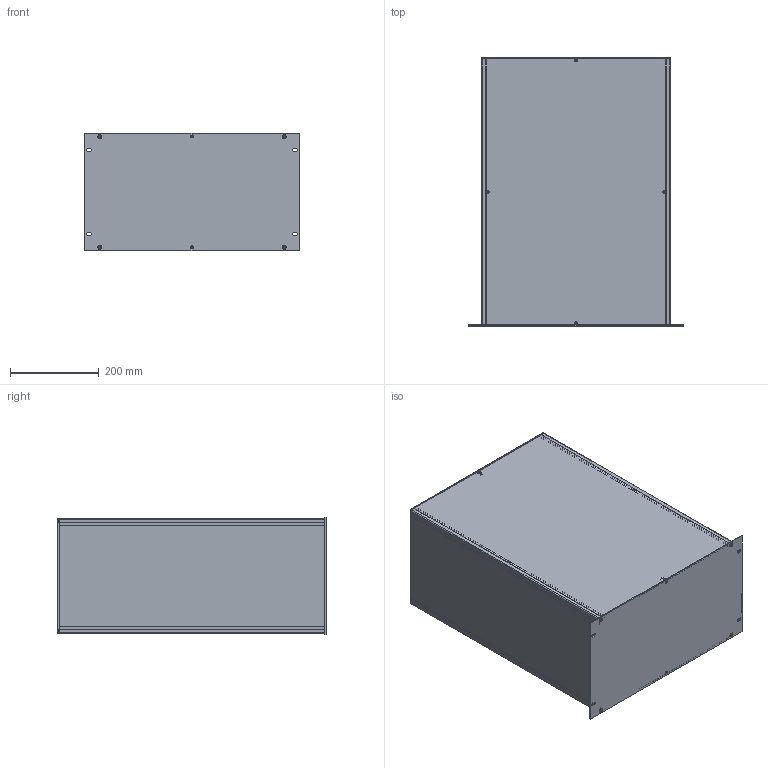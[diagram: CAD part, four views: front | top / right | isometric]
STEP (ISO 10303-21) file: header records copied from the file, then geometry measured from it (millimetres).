
FILE_DESCRIPTION(/* description */ (''),/* implementation_level */ '2;1');
FILE_NAME(/* name */ '//diskstation/Kunden/Gehäuse/Gehäuse/6HE/step/Zoll 1HE Rack Gehäuse Tiefe-600.step',/* time_stamp */ '2022-02-17T16:51:09+01:00',/* author */ (''),/* organization */ (''),/* preprocessor_version */ 'ST-DEVELOPER v18.1',/* originating_system */ 'Autodesk Translation Framework v10.10.0.1391',/* authorisation */ '');
FILE_SCHEMA (('AUTOMOTIVE_DESIGN { 1 0 10303 214 3 1 1 }'));
Length unit declared in the file: millimetre
Products named in the file (28): 6HE Gehäuse mit parametern; Gehäuse; Gehäuseprofil 1 unten links; Gehäuseprofil 2 oben rechts; Gehäuseprofil 1 unten rechts; Gehäuseprofil 2 oben links; Rückplatte; Deckel; Seitenteil links; Seitenteil rechts; Bodenplatte; Montageklotz Front/Deckel; Montageklotz Front/Boden; Montageklotz Rück/Deckel; Montageklotz Rück/Boden; Gewindestreifen; Frontplatte; Schrauben M5; Schraube Front; Schraube Front (1); Schraube Front (2); Schraube Front (3); Schraube Rück (1); Schraube Rück; Schraube Rück (2); Schraube Rück (3); Schrauben M3; HI_Senkschraube DIN 965 A v2 M3x5 24677.030.005(High)
Assembly tree (37 placements, depth 3):
  6HE Gehäuse mit parametern
    Gehäuse
      Gehäuseprofil 1 unten links
      Gehäuseprofil 2 oben rechts
      Gehäuseprofil 1 unten rechts
      Gehäuseprofil 2 oben links
      Rückplatte
      Deckel
      Seitenteil links
      Seitenteil rechts
      Bodenplatte
      Montageklotz Front/Deckel
      Montageklotz Front/Boden
      Montageklotz Rück/Deckel
      Montageklotz Rück/Boden
      Gewindestreifen  x2
    Frontplatte
    Schrauben M5
      Schraube Front
      Schraube Front (1)
      Schraube Front (2)
      Schraube Front (3)
      Schraube Rück (1)
      Schraube Rück
      Schraube Rück (2)
      Schraube Rück (3)
    Schrauben M3
      HI_Senkschraube DIN 965 A v2 M3x5 24677.030.005(High)  x10
Bounding box: 483 x 608.2 x 265 mm (x, y, z)
Volume: 2654565.4 mm3; surface area: 2296372.1 mm2
Topology: 34 solids, 34 shells, 944 faces, 2346 edges, 1470 vertices
Faces by surface type: cylinder 422, plane 342, cone 164, torus 8, bspline 8
Full cylindrical faces by diameter (mm): 2.529 x180, 3 x10, 3.2 x10, 4.234 x40, 5 x8, 5.2 x4, 5.3 x8, 5.6 x10, 9.5 x8
Entity records: 18600 total; most frequent: CARTESIAN_POINT 3348, DIRECTION 3135, ORIENTED_EDGE 2760, EDGE_CURVE 1380, AXIS2_PLACEMENT_3D 1195, VERTEX_POINT 868, EDGE_LOOP 866, LINE 745
